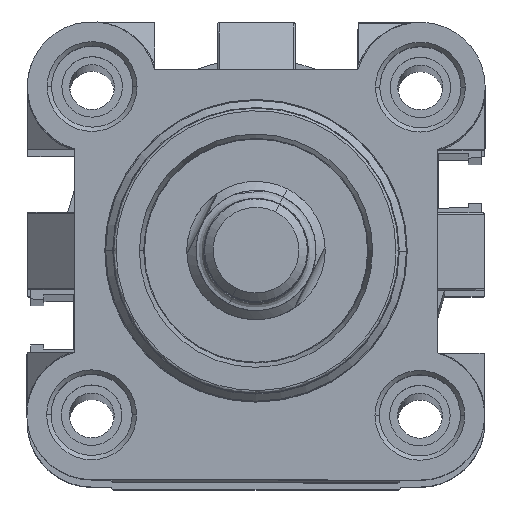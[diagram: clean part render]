
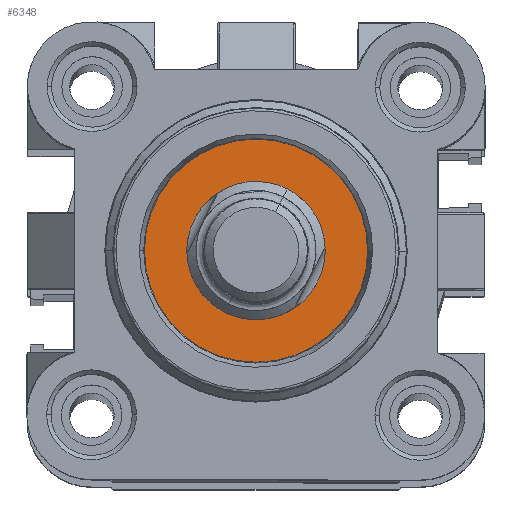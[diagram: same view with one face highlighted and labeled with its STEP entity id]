
A CAD part, top view. The second image highlights one B-rep face of the part: STEP entity #6348.
In plain terms, the highlighted planar face has unit normal (0, 0, 1) as drawn and (0, 0, -1) by its records, which use the part's own axes.
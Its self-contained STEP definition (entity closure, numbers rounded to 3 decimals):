
#465 = AXIS2_PLACEMENT_3D ( 'NONE', #6367, #1241, #10211 ) ;
#783 = VERTEX_POINT ( 'NONE', #6627 ) ;
#1173 = DIRECTION ( 'NONE',  ( 0., 0., -1. ) ) ;
#1241 = DIRECTION ( 'NONE',  ( 0., 0., -1. ) ) ;
#1382 = CIRCLE ( 'NONE', #4122, 12.918 ) ;
#1406 = AXIS2_PLACEMENT_3D ( 'NONE', #8849, #1173, #10137 ) ;
#3034 = DIRECTION ( 'NONE',  ( 0., 0., -1. ) ) ;
#3761 = CARTESIAN_POINT ( 'NONE',  ( 21., 29., -18.5 ) ) ;
#3977 = VERTEX_POINT ( 'NONE', #3761 ) ;
#4122 = AXIS2_PLACEMENT_3D ( 'NONE', #10713, #3034, #11995 ) ;
#4915 = AXIS2_PLACEMENT_3D ( 'NONE', #5242, #14162, #6521 ) ;
#5242 = CARTESIAN_POINT ( 'NONE',  ( 21., 21., -18.5 ) ) ;
#5973 = EDGE_CURVE ( 'NONE', #8066, #783, #14469, .T. ) ;
#5974 = ORIENTED_EDGE ( 'NONE', *, *, #10041, .F. ) ;
#6260 = DIRECTION ( 'NONE',  ( 0., 0., -1. ) ) ;
#6310 = ORIENTED_EDGE ( 'NONE', *, *, #15314, .T. ) ;
#6348 = ADVANCED_FACE ( 'NONE', ( #6978, #13729 ), #12717, .T. ) ;
#6367 = CARTESIAN_POINT ( 'NONE',  ( 34.073, 7.927, -18.5 ) ) ;
#6521 = DIRECTION ( 'NONE',  ( 0., 1., 0. ) ) ;
#6627 = CARTESIAN_POINT ( 'NONE',  ( 33.918, 21., -18.5 ) ) ;
#6978 = FACE_BOUND ( 'NONE', #10535, .T. ) ;
#8066 = VERTEX_POINT ( 'NONE', #9455 ) ;
#8299 = CARTESIAN_POINT ( 'NONE',  ( 21., 13., -18.5 ) ) ;
#8849 = CARTESIAN_POINT ( 'NONE',  ( 21., 21., -18.5 ) ) ;
#9455 = CARTESIAN_POINT ( 'NONE',  ( 8.082, 21., -18.5 ) ) ;
#10041 = EDGE_CURVE ( 'NONE', #3977, #13204, #10134, .T. ) ;
#10134 = CIRCLE ( 'NONE', #4915, 8. ) ;
#10137 = DIRECTION ( 'NONE',  ( 0., 1., 0. ) ) ;
#10211 = DIRECTION ( 'NONE',  ( -1., 0., 0. ) ) ;
#10535 = EDGE_LOOP ( 'NONE', ( #5974, #11359 ) ) ;
#10713 = CARTESIAN_POINT ( 'NONE',  ( 21., 21., -18.5 ) ) ;
#11359 = ORIENTED_EDGE ( 'NONE', *, *, #12907, .F. ) ;
#11975 = AXIS2_PLACEMENT_3D ( 'NONE', #13894, #6260, #15180 ) ;
#11995 = DIRECTION ( 'NONE',  ( -1., 0., 0. ) ) ;
#12717 = PLANE ( 'NONE',  #465 ) ;
#12829 = CIRCLE ( 'NONE', #1406, 8. ) ;
#12907 = EDGE_CURVE ( 'NONE', #13204, #3977, #12829, .T. ) ;
#13204 = VERTEX_POINT ( 'NONE', #8299 ) ;
#13729 = FACE_OUTER_BOUND ( 'NONE', #15426, .T. ) ;
#13894 = CARTESIAN_POINT ( 'NONE',  ( 21., 21., -18.5 ) ) ;
#14162 = DIRECTION ( 'NONE',  ( 0., 0., -1. ) ) ;
#14233 = ORIENTED_EDGE ( 'NONE', *, *, #5973, .T. ) ;
#14469 = CIRCLE ( 'NONE', #11975, 12.918 ) ;
#15180 = DIRECTION ( 'NONE',  ( -1., 0., 0. ) ) ;
#15314 = EDGE_CURVE ( 'NONE', #783, #8066, #1382, .T. ) ;
#15426 = EDGE_LOOP ( 'NONE', ( #14233, #6310 ) ) ;
